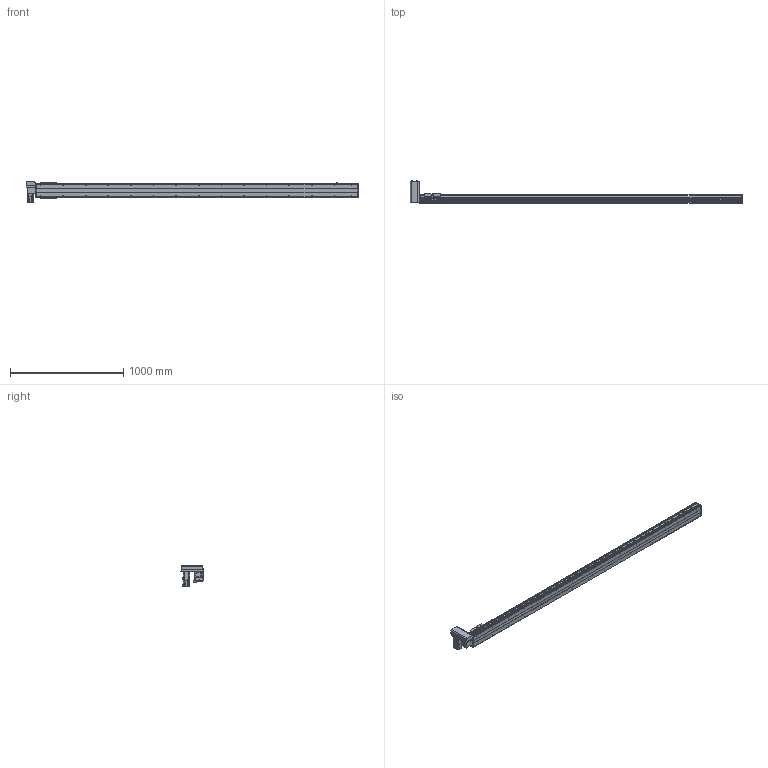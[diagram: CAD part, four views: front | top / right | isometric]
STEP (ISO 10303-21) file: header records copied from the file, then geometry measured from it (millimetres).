
FILE_DESCRIPTION( ( 'STEP AP214' ), '1' );
FILE_NAME( 'x:/temp/worker_27/temp/exporttempdir_6708_254_UeS2M/format_0/PBS120-P40-S2550-RU-T40-C1-N(0).stp', '2022-06-06T00:51:39', ( 'License CC BY-ND 4.0' ), ( 'CADENAS' ), ' ', 'PARTsolutions', ' ' );
FILE_SCHEMA( ( 'AUTOMOTIVE_DESIGN { 1 0 10303 214 1 1 1 1 }' ) );
Length unit declared in the file: millimetre
Products named in the file (7): PBS120-P40-S2550-RU-T40-C1-N(0); _PBS120-S2550()_body; _PBS120T-RU_motors; _T40-p1; _PBS120_sliser; _PBS120_plant; _PBS120_sensor
Assembly tree (8 placements, depth 2):
  PBS120-P40-S2550-RU-T40-C1-N(0)
    _PBS120-S2550()_body
    _PBS120T-RU_motors
    _T40-p1
    _PBS120_sliser
    _PBS120_plant
    _PBS120_sensor  x3
Bounding box: 2936 x 198 x 189.7 mm (x, y, z)
Volume: 11006471 mm3; surface area: 2276891.2 mm2
Topology: 8 solids, 8 shells, 870 faces, 2226 edges, 1429 vertices
Faces by surface type: plane 563, cylinder 243, cone 62, torus 2
Full cylindrical faces by diameter (mm): 2.459 x6, 3.242 x4, 4 x2, 4.134 x4, 4.5 x10, 4.917 x34, 5.5 x11, 6 x2, 6.6 x1, 7 x2, 8.5 x4, 9 x4, 12 x1, 14 x1, 30 x2, 40 x1, 50 x2
Entity records: 28500 total; most frequent: DIRECTION 3908, CARTESIAN_POINT 3803, ORIENTED_EDGE 3586, EDGE_CURVE 1793, AXIS2_PLACEMENT_3D 1340, VERTEX_POINT 1235, LINE 1228, VECTOR 1228
